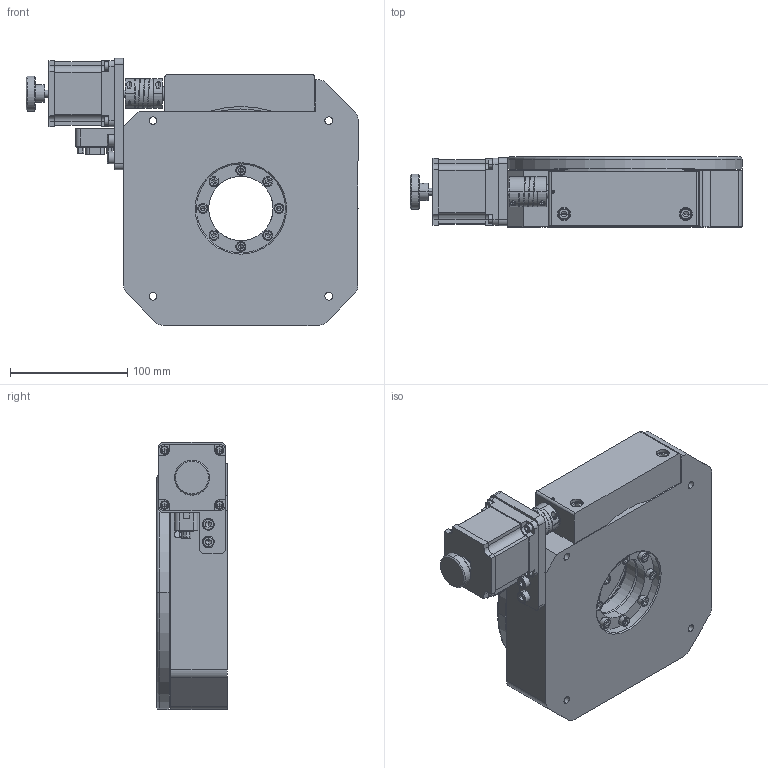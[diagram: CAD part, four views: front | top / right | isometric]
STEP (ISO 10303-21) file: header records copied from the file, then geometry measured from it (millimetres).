
FILE_DESCRIPTION (( 'STEP AP203' ), '1' );
FILE_NAME ('7SRA4200-0µç¶¯Ðý×ªÌ¨.STEP', '2025-06-26T06:15:43', ( 'SF' ), ( '' ), 'SwSTEP 2.0', 'SolidWorks 2018', '' );
FILE_SCHEMA (( 'CONFIG_CONTROL_DESIGN' ));
Length unit declared in the file: millimetre
Products named in the file (30): 羲羞埴翐芛蹟隊M2x5_GB_FASTENER_SCREWS_SCHS M2X5-5-N; ACRM-100-6-10粟俶薊粣ん; RU85蝠脫幗翐粣遠; 7SRA4200-0萇雄唅蛌怢; 57BYGH435-07B祭輛萇儂; 7SRA1200-14恘裝; 内六角圆柱头螺钉M5x20_内六角圆柱头螺钉M5x20; RU85交叉滚柱轴环内圈; 内六角圆柱头螺钉M6x30_内六角圆柱头螺钉 M6x30; 内六角圆柱头螺钉M6x16_内六角圆柱头螺钉M6x12; RU85交叉滚柱轴环外圈; 7SRA1400-10粣創揤杶; 内六角圆柱头螺钉M4x12_GB_FASTENER_SCREWS_HSHCS M4X10-N; 7SRA1100-14諉諳釱; RU85交叉滚柱轴环滚柱; 内六角圆柱头螺钉M6x20_内六角圆柱头螺钉 M6x30; 开槽锥端紧定螺钉M2.5x4_开槽锥端紧定螺钉M2.5x4; 7SRAD-1.0羲壽萇繚啣; 内六角圆柱头螺钉M3x16_内六角圆柱头螺钉 M3x16; 7SRA1200-10恘謫; DB9Z蟀諉ん釱; 7SRA4200-1價釱; 7SRA4200-3恘謫蟀諉釱; 7SRA1200-15恘裝殤; 内六角平端紧定螺钉M4x4_内六角平端紧定螺钉M4x4; 7SRA1200-13萇儂啣; 7STA02400A-4忒謫; 深沟球轴承61801_深沟球轴承61801; 7SRA4200-2怢醱; 朴5-2棠詩
Assembly tree (113 placements, depth 3):
  7SRA4200-0萇雄唅蛌怢
    7SRA4200-1價釱
    7SRA1200-10恘謫
    7SRA1200-15恘裝殤
    7SRA1200-14恘裝
    深沟球轴承61801_深沟球轴承61801  x2
    7SRA1400-10粣創揤杶  x2
    开槽锥端紧定螺钉M2.5x4_开槽锥端紧定螺钉M2.5x4
    ACRM-100-6-10粟俶薊粣ん
    7SRA1200-13萇儂啣
    7SRA1100-14諉諳釱
    DB9Z蟀諉ん釱
    57BYGH435-07B祭輛萇儂
    7STA02400A-4忒謫
    内六角圆柱头螺钉M6x30_内六角圆柱头螺钉 M6x30  x2
    内六角平端紧定螺钉M4x4_内六角平端紧定螺钉M4x4
    内六角圆柱头螺钉M3x16_内六角圆柱头螺钉 M3x16  x2
    7SRA4200-2怢醱
    7SRAD-1.0羲壽萇繚啣
    内六角圆柱头螺钉M6x16_内六角圆柱头螺钉M6x12  x2
    内六角圆柱头螺钉M4x12_GB_FASTENER_SCREWS_HSHCS M4X10-N  x10
    羲羞埴翐芛蹟隊M2x5_GB_FASTENER_SCREWS_SCHS M2X5-5-N  x2
    RU85蝠脫幗翐粣遠
      RU85交叉滚柱轴环外圈
      RU85交叉滚柱轴环滚柱  x52
      RU85交叉滚柱轴环内圈
    朴5-2棠詩
    7SRA4200-3恘謫蟀諉釱
    内六角圆柱头螺钉M5x20_内六角圆柱头螺钉M5x20  x16
    内六角圆柱头螺钉M6x20_内六角圆柱头螺钉 M6x30  x4
Bounding box: 283.5 x 60 x 228.1 mm (x, y, z)
Volume: 2010419.7 mm3; surface area: 457377.9 mm2
Topology: 114 solids, 114 shells, 2565 faces, 6630 edges, 4180 vertices
Faces by surface type: plane 994, cylinder 949, cone 292, torus 242, sphere 84, bspline 4
Entity records: 53275 total; most frequent: CARTESIAN_POINT 11668, DIRECTION 7918, ORIENTED_EDGE 7350, EDGE_CURVE 3675, AXIS2_PLACEMENT_3D 3194, VERTEX_POINT 2397, EDGE_LOOP 1788, CIRCLE 1641
